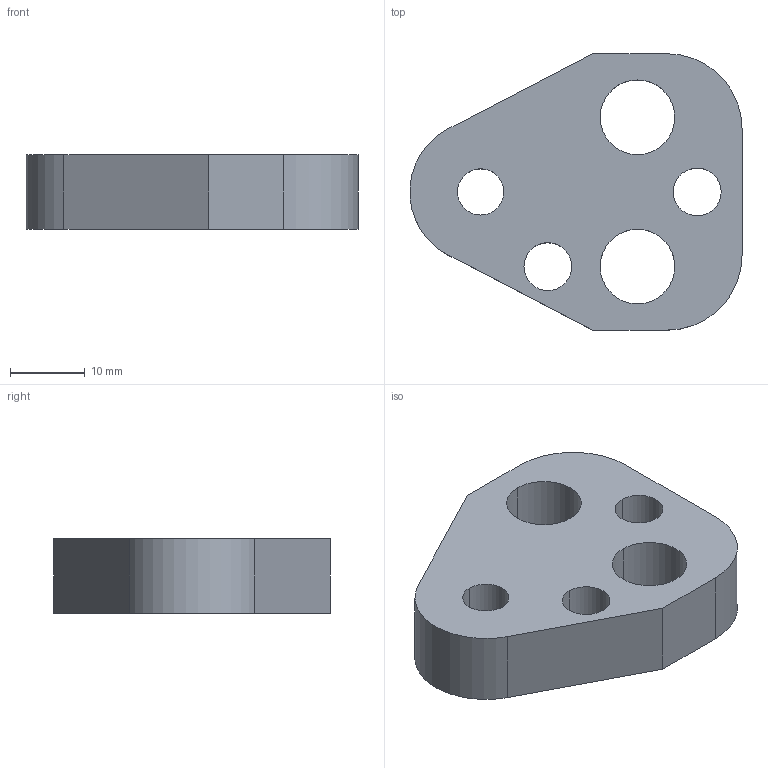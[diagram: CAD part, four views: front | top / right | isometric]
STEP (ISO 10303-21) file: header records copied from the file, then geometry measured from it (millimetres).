
FILE_DESCRIPTION(/* description */ (''),/* implementation_level */ '2;1');
FILE_NAME(/* name */ '3d_bpc10-10_03415_r00.stp',/* time_stamp */ '2011-01-10T14:17:11+09:00',/* author */ ('MISUMI'),/* organization */ (''),/* preprocessor_version */ 'ST-DEVELOPER v11',/* originating_system */ 'UGS - NX 5.0',/* authorisation */ '');
FILE_SCHEMA (('CONFIG_CONTROL_DESIGN'));
Length unit declared in the file: millimetre
Products named in the file (1): 3d_bpc10-10_03415_r00
Bounding box: 44.47 x 37 x 10 mm (x, y, z)
Volume: 10289.7 mm3; surface area: 4611.5 mm2
Topology: 1 solids, 1 shells, 20 faces, 54 edges, 36 vertices
Faces by surface type: cylinder 13, plane 7
Entity records: 750 total; most frequent: DIRECTION 122, CARTESIAN_POINT 111, ORIENTED_EDGE 108, EDGE_CURVE 54, AXIS2_PLACEMENT_3D 47, VERTEX_POINT 36, EDGE_LOOP 30, LINE 28
